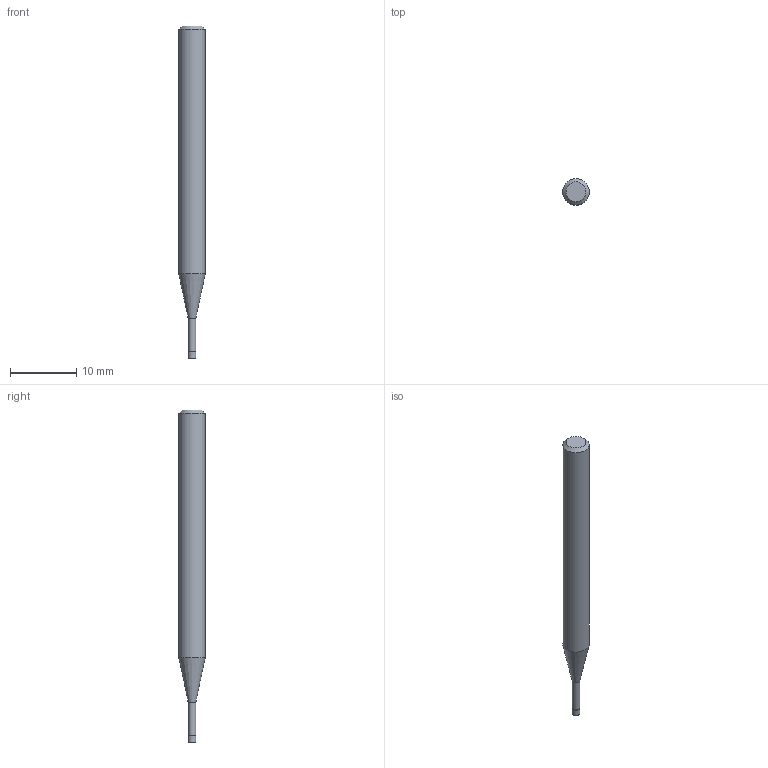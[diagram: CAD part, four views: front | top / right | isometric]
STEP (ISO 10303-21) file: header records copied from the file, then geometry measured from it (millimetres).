
FILE_DESCRIPTION((''),'2;1');
FILE_NAME('C:\Users\nsx150\AppData\Local\Temp\Mastercam 2021\RJ5U8K7RMU\TEMP.step','2021-04-21T16:41:17',(''),(''),'STEP Write','Mastercam 2021 ... CNC Software, Inc.','');
FILE_SCHEMA(('AUTOMOTIVE_DESIGN'));
Length unit declared in the file: millimetre
Products named in the file (1): None
Bounding box: 4 x 4 x 50 mm (x, y, z)
Volume: 512 mm3; surface area: 557.8 mm2
Topology: 2 solids, 2 shells, 9 faces, 12 edges, 7 vertices
Faces by surface type: plane 4, cylinder 3, cone 2
Full cylindrical faces by diameter (mm): 1.15 x1, 1.2 x1, 4 x1
Entity records: 211 total; most frequent: DIRECTION 36, CARTESIAN_POINT 25, AXIS2_PLACEMENT_3D 18, ORIENTED_EDGE 14, EDGE_LOOP 14, STYLED_ITEM 12, ADVANCED_FACE 9, FACE_BOUND 8
